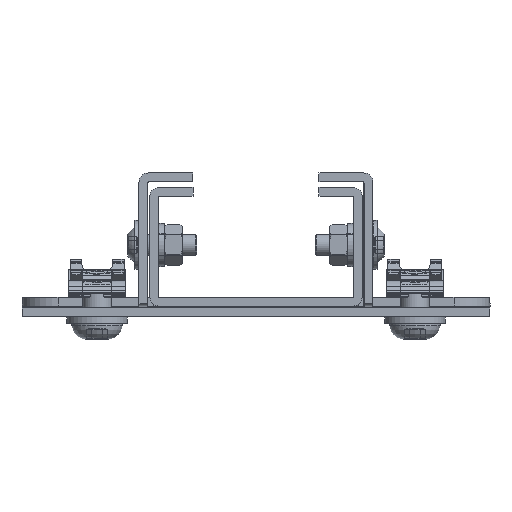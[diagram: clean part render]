
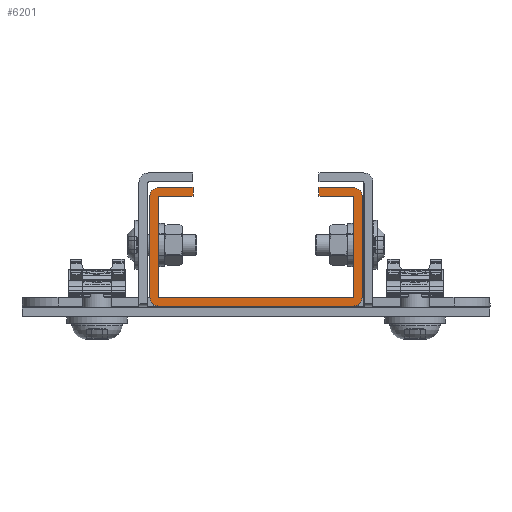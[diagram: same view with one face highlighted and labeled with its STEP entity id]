
A CAD part, left-side view. The second image highlights one B-rep face of the part: STEP entity #6201.
In plain terms, the highlighted planar face has unit normal (-1, 0, 0) as drawn and (1, 0, 0) by its records, which use the part's own axes.
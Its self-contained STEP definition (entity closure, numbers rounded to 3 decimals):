
#483=LINE('',#8668,#855);
#490=LINE('',#8689,#862);
#495=LINE('',#8723,#867);
#497=LINE('',#8727,#869);
#500=LINE('',#8733,#872);
#506=LINE('',#8784,#878);
#510=LINE('',#8792,#882);
#514=LINE('',#8824,#886);
#517=LINE('',#8830,#889);
#521=LINE('',#8838,#893);
#558=LINE('',#8938,#930);
#559=LINE('',#8939,#931);
#855=VECTOR('',#7259,1000.);
#862=VECTOR('',#7272,1000.);
#867=VECTOR('',#7307,1000.);
#869=VECTOR('',#7311,1000.);
#872=VECTOR('',#7318,1000.);
#878=VECTOR('',#7362,1000.);
#882=VECTOR('',#7368,1000.);
#886=VECTOR('',#7402,1000.);
#889=VECTOR('',#7407,1000.);
#893=VECTOR('',#7415,1000.);
#930=VECTOR('',#7498,1000.);
#931=VECTOR('',#7499,1000.);
#1600=ORIENTED_EDGE('',*,*,#2804,.F.);
#1601=ORIENTED_EDGE('',*,*,#2759,.T.);
#1602=ORIENTED_EDGE('',*,*,#2731,.T.);
#1603=ORIENTED_EDGE('',*,*,#2750,.T.);
#1604=ORIENTED_EDGE('',*,*,#2754,.T.);
#1605=ORIENTED_EDGE('',*,*,#2758,.F.);
#1606=ORIENTED_EDGE('',*,*,#2751,.F.);
#1607=ORIENTED_EDGE('',*,*,#2745,.F.);
#1608=ORIENTED_EDGE('',*,*,#2735,.F.);
#1609=ORIENTED_EDGE('',*,*,#2762,.F.);
#1610=ORIENTED_EDGE('',*,*,#2805,.T.);
#1611=ORIENTED_EDGE('',*,*,#2713,.F.);
#1612=ORIENTED_EDGE('',*,*,#2687,.F.);
#1613=ORIENTED_EDGE('',*,*,#2698,.F.);
#1614=ORIENTED_EDGE('',*,*,#2704,.F.);
#1615=ORIENTED_EDGE('',*,*,#2709,.T.);
#1616=ORIENTED_EDGE('',*,*,#2706,.T.);
#1617=ORIENTED_EDGE('',*,*,#2699,.T.);
#1618=ORIENTED_EDGE('',*,*,#2678,.T.);
#1619=ORIENTED_EDGE('',*,*,#2710,.T.);
#2678=EDGE_CURVE('',#3330,#3329,#483,.T.);
#2687=EDGE_CURVE('',#3336,#3334,#490,.T.);
#2698=EDGE_CURVE('',#3346,#3336,#3767,.T.);
#2699=EDGE_CURVE('',#3347,#3330,#3768,.T.);
#2704=EDGE_CURVE('',#3350,#3346,#495,.T.);
#2706=EDGE_CURVE('',#3352,#3347,#497,.T.);
#2709=EDGE_CURVE('',#3350,#3352,#500,.T.);
#2710=EDGE_CURVE('',#3329,#3353,#3770,.T.);
#2713=EDGE_CURVE('',#3334,#3355,#3771,.T.);
#2731=EDGE_CURVE('',#3371,#3370,#506,.T.);
#2735=EDGE_CURVE('',#3373,#3374,#510,.T.);
#2745=EDGE_CURVE('',#3374,#3383,#3790,.T.);
#2750=EDGE_CURVE('',#3370,#3386,#3793,.T.);
#2751=EDGE_CURVE('',#3383,#3387,#514,.T.);
#2754=EDGE_CURVE('',#3386,#3389,#517,.T.);
#2758=EDGE_CURVE('',#3387,#3389,#521,.T.);
#2759=EDGE_CURVE('',#3391,#3371,#3794,.T.);
#2762=EDGE_CURVE('',#3393,#3373,#3795,.T.);
#2804=EDGE_CURVE('',#3391,#3353,#558,.T.);
#2805=EDGE_CURVE('',#3393,#3355,#559,.T.);
#3329=VERTEX_POINT('',#8667);
#3330=VERTEX_POINT('',#8669);
#3334=VERTEX_POINT('',#8684);
#3336=VERTEX_POINT('',#8688);
#3346=VERTEX_POINT('',#8710);
#3347=VERTEX_POINT('',#8714);
#3350=VERTEX_POINT('',#8722);
#3352=VERTEX_POINT('',#8728);
#3353=VERTEX_POINT('',#8736);
#3355=VERTEX_POINT('',#8742);
#3370=VERTEX_POINT('',#8783);
#3371=VERTEX_POINT('',#8785);
#3373=VERTEX_POINT('',#8791);
#3374=VERTEX_POINT('',#8793);
#3383=VERTEX_POINT('',#8813);
#3386=VERTEX_POINT('',#8821);
#3387=VERTEX_POINT('',#8825);
#3389=VERTEX_POINT('',#8831);
#3391=VERTEX_POINT('',#8841);
#3393=VERTEX_POINT('',#8847);
#3767=CIRCLE('',#6560,2.6);
#3768=CIRCLE('',#6562,0.1);
#3770=CIRCLE('',#6569,0.1);
#3771=CIRCLE('',#6572,2.6);
#3790=CIRCLE('',#6597,2.6);
#3793=CIRCLE('',#6601,0.1);
#3794=CIRCLE('',#6607,0.1);
#3795=CIRCLE('',#6610,2.6);
#4050=EDGE_LOOP('',(#1600,#1601,#1602,#1603,#1604,#1605,#1606,#1607,#1608,
#1609,#1610,#1611,#1612,#1613,#1614,#1615,#1616,#1617,#1618,#1619));
#4444=FACE_BOUND('',#4050,.T.);
#4740=PLANE('',#6628);
#6201=ADVANCED_FACE('',(#4444),#4740,.T.);
#6560=AXIS2_PLACEMENT_3D('',#8711,#7294,#7295);
#6562=AXIS2_PLACEMENT_3D('',#8713,#7298,#7299);
#6569=AXIS2_PLACEMENT_3D('',#8735,#7321,#7322);
#6572=AXIS2_PLACEMENT_3D('',#8741,#7328,#7329);
#6597=AXIS2_PLACEMENT_3D('',#8812,#7388,#7389);
#6601=AXIS2_PLACEMENT_3D('',#8822,#7398,#7399);
#6607=AXIS2_PLACEMENT_3D('',#8840,#7418,#7419);
#6610=AXIS2_PLACEMENT_3D('',#8846,#7425,#7426);
#6628=AXIS2_PLACEMENT_3D('',#8937,#7496,#7497);
#7259=DIRECTION('',(0.,0.,-1.));
#7272=DIRECTION('',(0.,0.,-1.));
#7294=DIRECTION('',(-1.,0.,0.));
#7295=DIRECTION('',(0.,-1.,0.));
#7298=DIRECTION('',(-1.,0.,0.));
#7299=DIRECTION('',(0.,1.,0.));
#7307=DIRECTION('',(0.,1.,0.));
#7311=DIRECTION('',(0.,1.,0.));
#7318=DIRECTION('',(0.,0.,-1.));
#7321=DIRECTION('',(-1.,0.,0.));
#7322=DIRECTION('',(0.,0.,-1.));
#7328=DIRECTION('',(-1.,0.,0.));
#7329=DIRECTION('',(0.,0.,1.));
#7362=DIRECTION('',(0.,0.,1.));
#7368=DIRECTION('',(0.,0.,1.));
#7388=DIRECTION('',(-1.,0.,0.));
#7389=DIRECTION('',(0.,1.,0.));
#7398=DIRECTION('',(-1.,0.,0.));
#7399=DIRECTION('',(0.,1.,0.));
#7402=DIRECTION('',(0.,1.,0.));
#7407=DIRECTION('',(0.,1.,0.));
#7415=DIRECTION('',(0.,0.,-1.));
#7418=DIRECTION('',(-1.,0.,0.));
#7419=DIRECTION('',(0.,0.,1.));
#7425=DIRECTION('',(-1.,0.,0.));
#7426=DIRECTION('',(0.,0.,1.));
#7496=DIRECTION('',(1.,0.,0.));
#7497=DIRECTION('',(0.,0.,-1.));
#7498=DIRECTION('',(0.,1.,0.));
#7499=DIRECTION('',(0.,1.,0.));
#8667=CARTESIAN_POINT('',(922.,27.,0.1));
#8668=CARTESIAN_POINT('',(922.,27.,0.));
#8669=CARTESIAN_POINT('',(922.,27.,27.9));
#8684=CARTESIAN_POINT('',(922.,29.5,0.1));
#8688=CARTESIAN_POINT('',(922.,29.5,27.9));
#8689=CARTESIAN_POINT('',(922.,29.5,0.));
#8710=CARTESIAN_POINT('',(922.,26.9,30.5));
#8711=CARTESIAN_POINT('',(922.,26.9,27.9));
#8713=CARTESIAN_POINT('',(922.,26.9,27.9));
#8714=CARTESIAN_POINT('',(922.,26.9,28.));
#8722=CARTESIAN_POINT('',(922.,17.5,30.5));
#8723=CARTESIAN_POINT('',(922.,0.,30.5));
#8727=CARTESIAN_POINT('',(922.,27.,28.));
#8728=CARTESIAN_POINT('',(922.,17.5,28.));
#8733=CARTESIAN_POINT('',(922.,17.5,30.5));
#8735=CARTESIAN_POINT('',(922.,26.9,0.1));
#8736=CARTESIAN_POINT('',(922.,26.9,0.));
#8741=CARTESIAN_POINT('',(922.,26.9,0.1));
#8742=CARTESIAN_POINT('',(922.,26.9,-2.5));
#8783=CARTESIAN_POINT('',(922.,-27.,27.9));
#8784=CARTESIAN_POINT('',(922.,-27.,30.5));
#8785=CARTESIAN_POINT('',(922.,-27.,0.1));
#8791=CARTESIAN_POINT('',(922.,-29.5,0.1));
#8792=CARTESIAN_POINT('',(922.,-29.5,30.5));
#8793=CARTESIAN_POINT('',(922.,-29.5,27.9));
#8812=CARTESIAN_POINT('',(922.,-26.9,27.9));
#8813=CARTESIAN_POINT('',(922.,-26.9,30.5));
#8821=CARTESIAN_POINT('',(922.,-26.9,28.));
#8822=CARTESIAN_POINT('',(922.,-26.9,27.9));
#8824=CARTESIAN_POINT('',(922.,0.,30.5));
#8825=CARTESIAN_POINT('',(922.,-17.5,30.5));
#8830=CARTESIAN_POINT('',(922.,27.,28.));
#8831=CARTESIAN_POINT('',(922.,-17.5,28.));
#8838=CARTESIAN_POINT('',(922.,-17.5,30.5));
#8840=CARTESIAN_POINT('',(922.,-26.9,0.1));
#8841=CARTESIAN_POINT('',(922.,-26.9,0.));
#8846=CARTESIAN_POINT('',(922.,-26.9,0.1));
#8847=CARTESIAN_POINT('',(922.,-26.9,-2.5));
#8937=CARTESIAN_POINT('',(922.,27.,-2.5));
#8938=CARTESIAN_POINT('',(922.,27.,0.));
#8939=CARTESIAN_POINT('',(922.,27.,-2.5));
